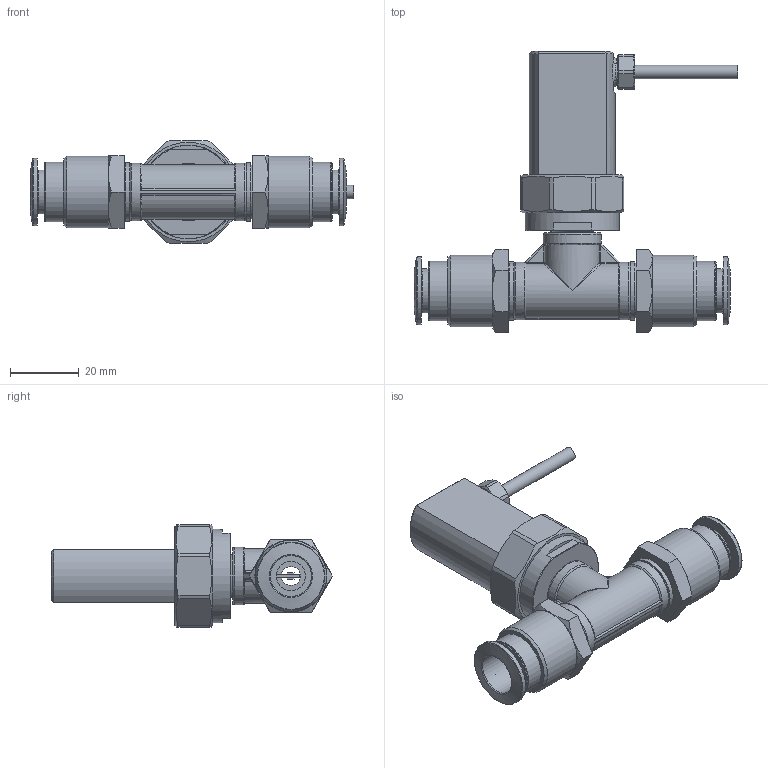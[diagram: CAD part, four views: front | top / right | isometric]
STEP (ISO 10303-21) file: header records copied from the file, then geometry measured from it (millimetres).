
FILE_DESCRIPTION(/* description */ (''),/* implementation_level */ '2;1');
FILE_NAME(/* name */ 'Mini-IL 30.208 mit Steckverschraubung.stp',/* time_stamp */ '2025-07-15T08:18:17+02:00',/* author */ (''),/* organization */ (''),/* preprocessor_version */ 'ST-DEVELOPER v19.4',/* originating_system */ 'SIEMENS PLM Software NX2306.8501',/* authorisation */ '');
FILE_SCHEMA (('AP203_CONFIGURATION_CONTROLLED_3D_DESIGN_OF_MECHANICAL_PARTS_AND_ASSEMBLIES_MIM_LF { 1 0 10303 403 2 1 2}'));
Length unit declared in the file: millimetre
Products named in the file (1): 01_objects
Bounding box: 94.2 x 81.92 x 30 mm (x, y, z)
Volume: 42422.5 mm3; surface area: 19654.9 mm2
Topology: 1 solids, 1 shells, 296 faces, 736 edges, 463 vertices
Faces by surface type: plane 131, cylinder 79, cone 42, bspline 25, torus 15, sphere 4
Full cylindrical faces by diameter (mm): 3.95 x1, 8 x1, 8.5 x2, 8.771 x2, 11 x2, 11.1 x1, 11.2 x1, 12 x2, 12.8 x2, 16 x4, 16.8 x2, 17 x4, 17.4 x2, 19.8 x2, 20.8 x2, 27.3 x1, 27.4 x1
Entity records: 11754 total; most frequent: CARTESIAN_POINT 5409, ORIENTED_EDGE 1264, DIRECTION 1209, EDGE_CURVE 632, AXIS2_PLACEMENT_3D 481, VERTEX_POINT 438, EDGE_LOOP 402, ADVANCED_FACE 294
